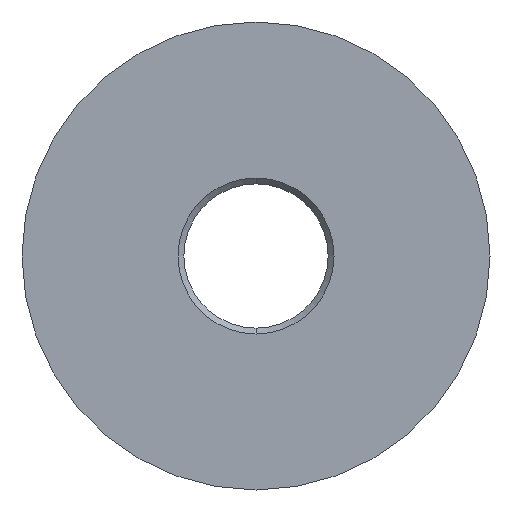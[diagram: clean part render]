
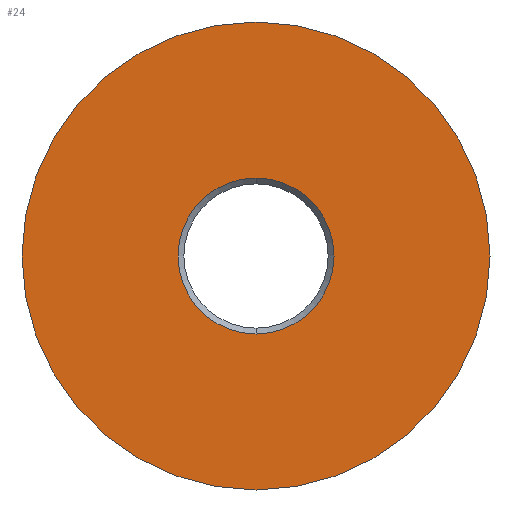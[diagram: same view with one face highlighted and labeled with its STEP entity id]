
A CAD part, front view. The second image highlights one B-rep face of the part: STEP entity #24.
In plain terms, the highlighted planar face has unit normal (0, -1, 0).
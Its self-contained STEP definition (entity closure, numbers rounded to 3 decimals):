
#3 = ORIENTED_EDGE ( 'NONE', *, *, #110, .F. ) ;
#5 = CIRCLE ( 'NONE', #198, 2. ) ;
#8 = DIRECTION ( 'NONE',  ( 0., -1., 0. ) ) ;
#10 = DIRECTION ( 'NONE',  ( 0., 0., -1. ) ) ;
#11 = EDGE_CURVE ( 'NONE', #350, #325, #131, .T. ) ;
#12 = DIRECTION ( 'NONE',  ( 0., 0., -1. ) ) ;
#14 = DIRECTION ( 'NONE',  ( 0., 0., -1. ) ) ;
#24 = ADVANCED_FACE ( 'NONE', ( #193, #63 ), #375, .F. ) ;
#29 = CARTESIAN_POINT ( 'NONE',  ( 0., -5., -2. ) ) ;
#55 = DIRECTION ( 'NONE',  ( 0., -1., 0. ) ) ;
#61 = DIRECTION ( 'NONE',  ( 0., -1., 0. ) ) ;
#63 = FACE_OUTER_BOUND ( 'NONE', #336, .T. ) ;
#66 = CARTESIAN_POINT ( 'NONE',  ( 0., -5., -6. ) ) ;
#69 = DIRECTION ( 'NONE',  ( 0., -1., 0. ) ) ;
#74 = CARTESIAN_POINT ( 'NONE',  ( 0., -5., 0. ) ) ;
#76 = CARTESIAN_POINT ( 'NONE',  ( 0., -5., 0. ) ) ;
#86 = DIRECTION ( 'NONE',  ( 0., 0., -1. ) ) ;
#103 = CARTESIAN_POINT ( 'NONE',  ( 0., -5., 0. ) ) ;
#110 = EDGE_CURVE ( 'NONE', #340, #222, #201, .T. ) ;
#120 = DIRECTION ( 'NONE',  ( 0., 0., 1. ) ) ;
#131 = CIRCLE ( 'NONE', #349, 6. ) ;
#145 = CARTESIAN_POINT ( 'NONE',  ( 0., -5., 6. ) ) ;
#147 = CARTESIAN_POINT ( 'NONE',  ( -2., -5., 0. ) ) ;
#149 = ORIENTED_EDGE ( 'NONE', *, *, #376, .F. ) ;
#152 = CARTESIAN_POINT ( 'NONE',  ( 0., -5., 2. ) ) ;
#175 = CIRCLE ( 'NONE', #298, 6. ) ;
#193 = FACE_BOUND ( 'NONE', #377, .T. ) ;
#198 = AXIS2_PLACEMENT_3D ( 'NONE', #103, #8, #86 ) ;
#201 = CIRCLE ( 'NONE', #320, 2. ) ;
#202 = DIRECTION ( 'NONE',  ( 0., 1., 0. ) ) ;
#222 = VERTEX_POINT ( 'NONE', #29 ) ;
#298 = AXIS2_PLACEMENT_3D ( 'NONE', #76, #55, #12 ) ;
#304 = EDGE_CURVE ( 'NONE', #325, #350, #175, .T. ) ;
#320 = AXIS2_PLACEMENT_3D ( 'NONE', #372, #61, #14 ) ;
#325 = VERTEX_POINT ( 'NONE', #145 ) ;
#329 = ORIENTED_EDGE ( 'NONE', *, *, #11, .T. ) ;
#336 = EDGE_LOOP ( 'NONE', ( #329, #364 ) ) ;
#340 = VERTEX_POINT ( 'NONE', #152 ) ;
#349 = AXIS2_PLACEMENT_3D ( 'NONE', #74, #69, #10 ) ;
#350 = VERTEX_POINT ( 'NONE', #66 ) ;
#364 = ORIENTED_EDGE ( 'NONE', *, *, #304, .T. ) ;
#366 = AXIS2_PLACEMENT_3D ( 'NONE', #147, #202, #120 ) ;
#372 = CARTESIAN_POINT ( 'NONE',  ( 0., -5., 0. ) ) ;
#375 = PLANE ( 'NONE',  #366 ) ;
#376 = EDGE_CURVE ( 'NONE', #222, #340, #5, .T. ) ;
#377 = EDGE_LOOP ( 'NONE', ( #149, #3 ) ) ;
